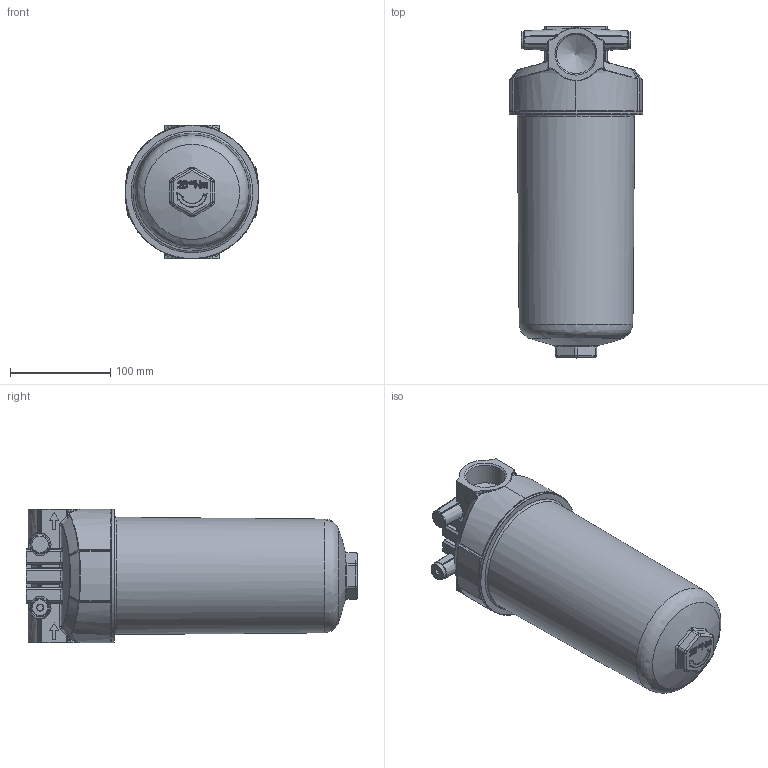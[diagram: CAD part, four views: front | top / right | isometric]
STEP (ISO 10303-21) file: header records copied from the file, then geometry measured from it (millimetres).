
FILE_DESCRIPTION((''),'2;1');
FILE_NAME('U:\Users\a.heinl\Sammelzeichnung.stp', '2015-03-30T13:18:25',('User'),('SDRC'),'I-DEAS Master Series 9','UNIX', 'Yes');
FILE_SCHEMA(('AUTOMOTIVE_DESIGN { 1 0 10303 214 1 1 1 1 }'));
Length unit declared in the file: millimetre
Products named in the file (1): 19794100(293994)
Bounding box: 132.97 x 330.5 x 133 mm (x, y, z)
Volume: 3278420.8 mm3; surface area: 156639 mm2
Topology: 1 solids, 4 shells, 1290 faces, 3083 edges, 1706 vertices
Faces by surface type: bspline 1290
Entity records: 50964 total; most frequent: CARTESIAN_POINT 32339, ORIENTED_EDGE 5866, EDGE_CURVE 2933, OVER_RIDING_STYLED_ITEM 1955, B_SPLINE_CURVE_WITH_KNOTS 1724, VERTEX_POINT 1674, EDGE_LOOP 1317, FACE_OUTER_BOUND 1290
